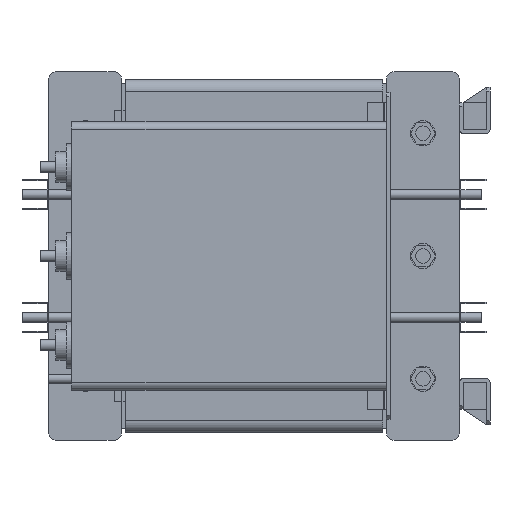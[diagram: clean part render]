
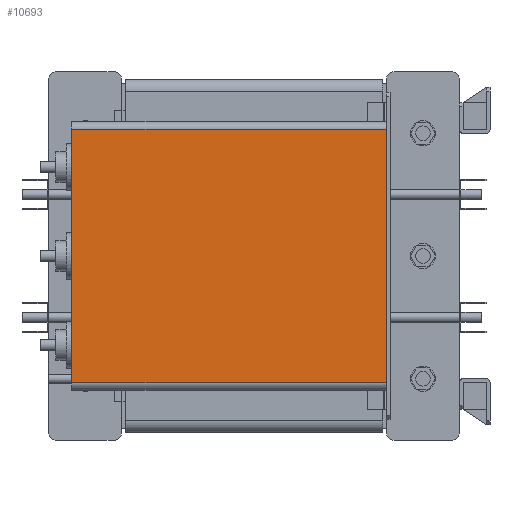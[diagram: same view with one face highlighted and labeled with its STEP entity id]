
A CAD part, left-side view. The second image highlights one B-rep face of the part: STEP entity #10693.
In plain terms, the highlighted planar face has unit normal (-1, 0, 0).
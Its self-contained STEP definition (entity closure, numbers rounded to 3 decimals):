
#1203=FACE_OUTER_BOUND('',#1911,.T.);
#1911=EDGE_LOOP('',(#9029,#9030,#9031,#9032));
#2894=LINE('',#17284,#4008);
#2966=LINE('',#17478,#4080);
#2967=LINE('',#17481,#4081);
#2968=LINE('',#17482,#4082);
#4008=VECTOR('',#14243,10.);
#4080=VECTOR('',#14425,10.);
#4081=VECTOR('',#14428,10.);
#4082=VECTOR('',#14429,10.);
#4984=VERTEX_POINT('',#17281);
#4985=VERTEX_POINT('',#17283);
#5052=VERTEX_POINT('',#17476);
#5053=VERTEX_POINT('',#17480);
#6331=EDGE_CURVE('',#4984,#4985,#2894,.T.);
#6429=EDGE_CURVE('',#4984,#5052,#2966,.T.);
#6430=EDGE_CURVE('',#5053,#5052,#2967,.T.);
#6431=EDGE_CURVE('',#4985,#5053,#2968,.T.);
#9029=ORIENTED_EDGE('',*,*,#6331,.F.);
#9030=ORIENTED_EDGE('',*,*,#6429,.T.);
#9031=ORIENTED_EDGE('',*,*,#6430,.F.);
#9032=ORIENTED_EDGE('',*,*,#6431,.F.);
#10077=PLANE('',#11695);
#10693=ADVANCED_FACE('',(#1203),#10077,.T.);
#11695=AXIS2_PLACEMENT_3D('',#17479,#14426,#14427);
#14243=DIRECTION('',(0.,0.,-1.));
#14425=DIRECTION('',(0.,1.,0.));
#14426=DIRECTION('center_axis',(-1.,0.,0.));
#14427=DIRECTION('ref_axis',(0.,0.,
1.));
#14428=DIRECTION('',(0.,0.,1.));
#14429=DIRECTION('',(0.,1.,0.));
#17281=CARTESIAN_POINT('',(-525.,-5.,165.));
#17283=CARTESIAN_POINT('',(-525.,-5.,-165.));
#17284=CARTESIAN_POINT('',(-525.,-5.,32.5));
#17476=CARTESIAN_POINT('',(-525.,405.,165.));
#17478=CARTESIAN_POINT('',(-525.,-5.,165.));
#17479=CARTESIAN_POINT('Origin',(-525.,-5.,-165.));
#17480=CARTESIAN_POINT('',(-525.,405.,-165.));
#17481=CARTESIAN_POINT('',(-525.,405.,-165.));
#17482=CARTESIAN_POINT('',(-525.,-5.,-165.));
